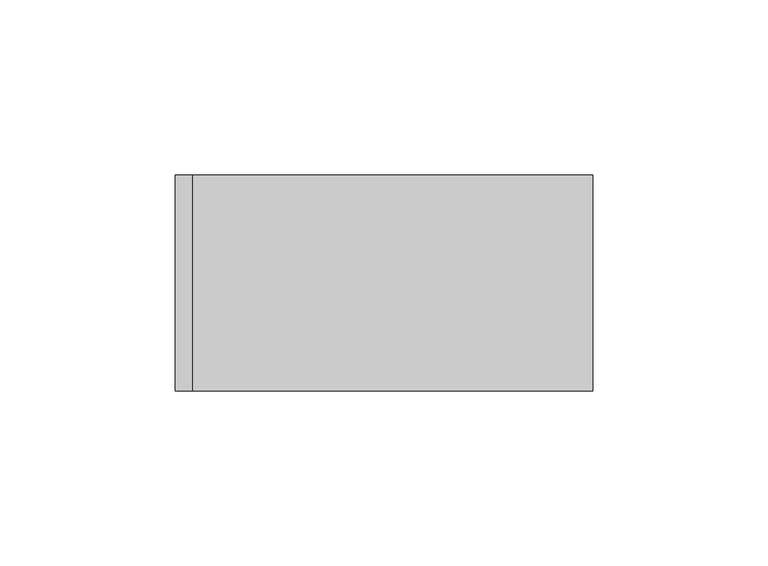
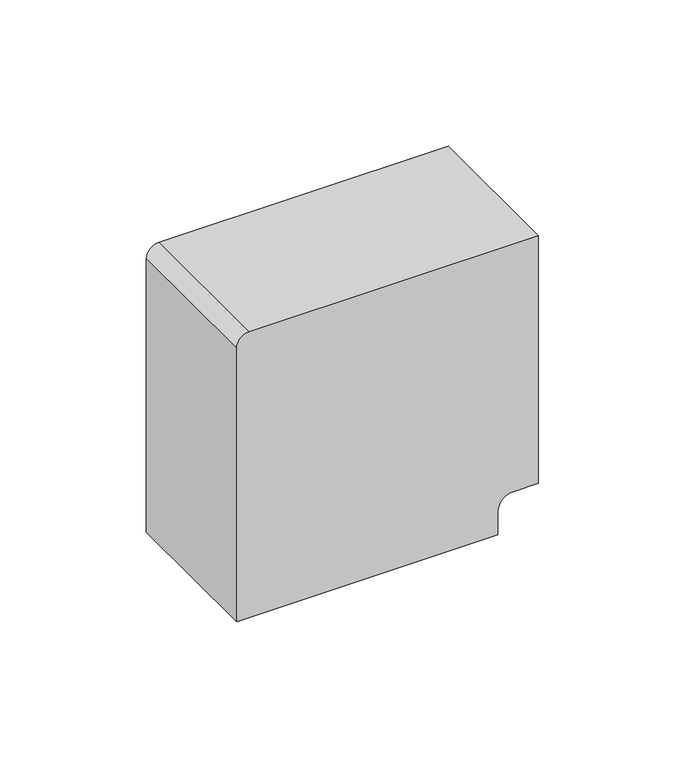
"""IFC4 building model written with IfcOpenShell, lengths in millimetres: proxy geometry, Поворот_на_90_гр.КМП : Поворот на 90 гр. КМП 100x60."""

from ifc_helpers import new_model, si_unit, point, frame, frame_2d, origin, place, context, project, spatial, polyline, circle_curve, trimmed, segment, composite_curve, outline, extrude, source, transform, mapped, element, save


def generic_models_ee7dcb77(model_context):
    return source(origin(), model_context, "Body", "SweptSolid", [
        extrude(outline(composite_curve([segment(polyline([(2.0580612, -16.0), (12.0580612, -16.0)]), True, "CONTINUOUS"), segment(trimmed(circle_curve(frame_2d((12.0580612, -10.0)), 6.0), [point((12.0580612, -16.0))], [point((18.0580612, -10.0))], True, "CARTESIAN"), True, "CONTINUOUS"), segment(polyline([(18.0580612, -10.0), (18.0580612, 0.0), (121.0580612, 0.0), (121.0580612, -113.9954444)]), True, "CONTINUOUS"), segment(trimmed(circle_curve(frame_2d((116.0535056, -113.9954444)), 5.0045556), [point((121.0580612, -113.9954444))], [point((116.0535056, -119.0))], False, "CARTESIAN"), True, "CONTINUOUS"), segment(polyline([(116.0535056, -119.0), (2.0580612, -119.0), (2.0580612, -16.0)]), True, "CONTINUOUS")], self_intersect=False)), frame((0.0, -61.5, 0.0), z_axis=(0.0, 1.0, 0.0), x_axis=(0.0, 0.0, 1.0)), (0.0, 0.0, 1.0), 61.5),
    ])


if __name__ == "__main__":
    model = new_model("IFC4")
    model_context = context("Model", 3, world=origin())
    ifc_project = project(units=[si_unit("LENGTHUNIT", "METRE", prefix="MILLI")], contexts=[model_context])
    site = spatial("IfcSite", under=ifc_project)
    building = spatial("IfcBuilding", under=site)
    placement = place(None, origin())
    generic_models_shape = generic_models_ee7dcb77(model_context)
    element("IfcBuildingElementProxy", 1, Name="Поворот_на_90_гр.КМП : Поворот на 90 гр. КМП 100x60", ObjectType="Поворот_на_90_гр.КМП : Поворот на 90 гр. КМП 100x60", at=placement, inside=building, context=model_context, shape_type="MappedRepresentation", body=[
        mapped(generic_models_shape, transform((0.0, 0.0, 0.0), x_axis=(1.0, 0.0, 0.0), y_axis=(0.0, 1.0, 0.0), z_axis=(0.0, 0.0, 1.0))),
    ])
    save(model, "model.ifc")
